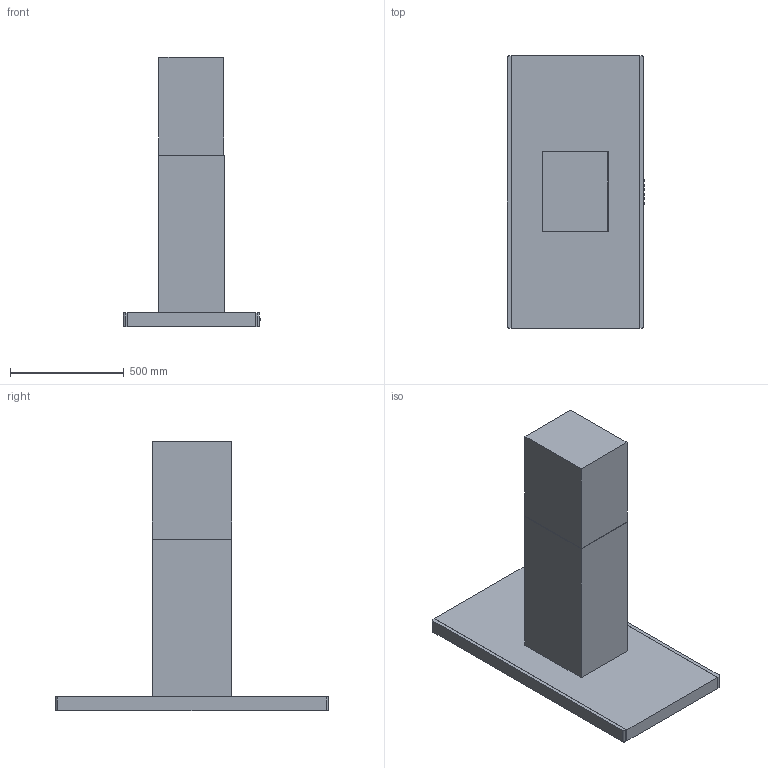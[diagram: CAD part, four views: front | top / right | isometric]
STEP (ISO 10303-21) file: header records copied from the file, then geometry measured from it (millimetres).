
FILE_DESCRIPTION(('CATIA V5 STEP Exchange'),'2;1');
FILE_NAME('K:\DISEGNI\SMEG\CAPPE\KI120XE\BIM\KI120XE.stp','2018-09-11T14:16:21+00:00',('none'),('none'),'CATIA Version 5-6 Release 2014 SP6','CATIA V5 STEP AP203','none');
FILE_SCHEMA(('CONFIG_CONTROL_DESIGN'));
Length unit declared in the file: millimetre
Products named in the file (1): KI120XE
Bounding box: 606 x 1200 x 1185 mm (x, y, z)
Volume: 155930699.3 mm3; surface area: 5052873.6 mm2
Topology: 15 solids, 15 shells, 141 faces, 280 edges, 184 vertices
Faces by surface type: plane 101, cylinder 40
Entity records: 3295 total; most frequent: CARTESIAN_POINT 562, ORIENTED_EDGE 560, DIRECTION 450, EDGE_CURVE 280, VECTOR 192, LINE 192, VERTEX_POINT 184, AXIS2_PLACEMENT_3D 170
